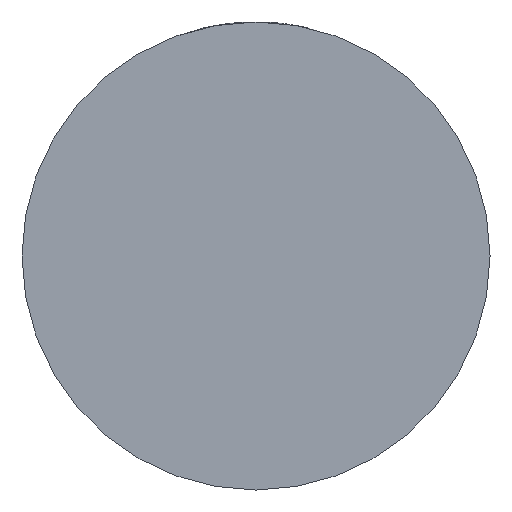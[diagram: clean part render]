
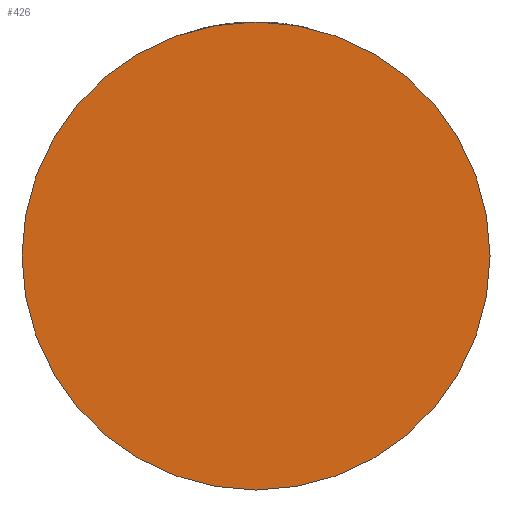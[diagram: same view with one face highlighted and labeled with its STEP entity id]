
A CAD part, front view. The second image highlights one B-rep face of the part: STEP entity #426.
In plain terms, the highlighted planar face has unit normal (0, -1, 0).
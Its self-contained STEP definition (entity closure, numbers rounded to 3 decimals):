
#124 = DIRECTION ( 'NONE',  ( 1., 0., 0. ) ) ;
#222 = CARTESIAN_POINT ( 'NONE',  ( 40., -28., 0. ) ) ;
#322 = VERTEX_POINT ( 'NONE', #222 ) ;
#369 = DIRECTION ( 'NONE',  ( 1., 0., 0. ) ) ;
#426 = ADVANCED_FACE ( 'NONE', ( #4173 ), #3512, .T. ) ;
#540 = ORIENTED_EDGE ( 'NONE', *, *, #2474, .T. ) ;
#1045 = CARTESIAN_POINT ( 'NONE',  ( 0., -28., 0. ) ) ;
#1442 = DIRECTION ( 'NONE',  ( 0., -1., 0. ) ) ;
#1529 = CIRCLE ( 'NONE', #3735, 40. ) ;
#1729 = CIRCLE ( 'NONE', #3737, 40. ) ;
#1826 = EDGE_LOOP ( 'NONE', ( #540, #2116 ) ) ;
#1882 = DIRECTION ( 'NONE',  ( 0., -1., 0. ) ) ;
#2116 = ORIENTED_EDGE ( 'NONE', *, *, #2219, .T. ) ;
#2146 = DIRECTION ( 'NONE',  ( 0., -1., 0. ) ) ;
#2219 = EDGE_CURVE ( 'NONE', #322, #2996, #1529, .T. ) ;
#2474 = EDGE_CURVE ( 'NONE', #2996, #322, #1729, .T. ) ;
#2569 = CARTESIAN_POINT ( 'NONE',  ( -40., -28., 0. ) ) ;
#2996 = VERTEX_POINT ( 'NONE', #2569 ) ;
#3082 = AXIS2_PLACEMENT_3D ( 'NONE', #3221, #1442, #124 ) ;
#3221 = CARTESIAN_POINT ( 'NONE',  ( 0., -28., 0. ) ) ;
#3512 = PLANE ( 'NONE',  #3082 ) ;
#3561 = CARTESIAN_POINT ( 'NONE',  ( 0., -28., 0. ) ) ;
#3735 = AXIS2_PLACEMENT_3D ( 'NONE', #3561, #1882, #3963 ) ;
#3737 = AXIS2_PLACEMENT_3D ( 'NONE', #1045, #2146, #369 ) ;
#3963 = DIRECTION ( 'NONE',  ( 1., 0., 0. ) ) ;
#4173 = FACE_OUTER_BOUND ( 'NONE', #1826, .T. ) ;
